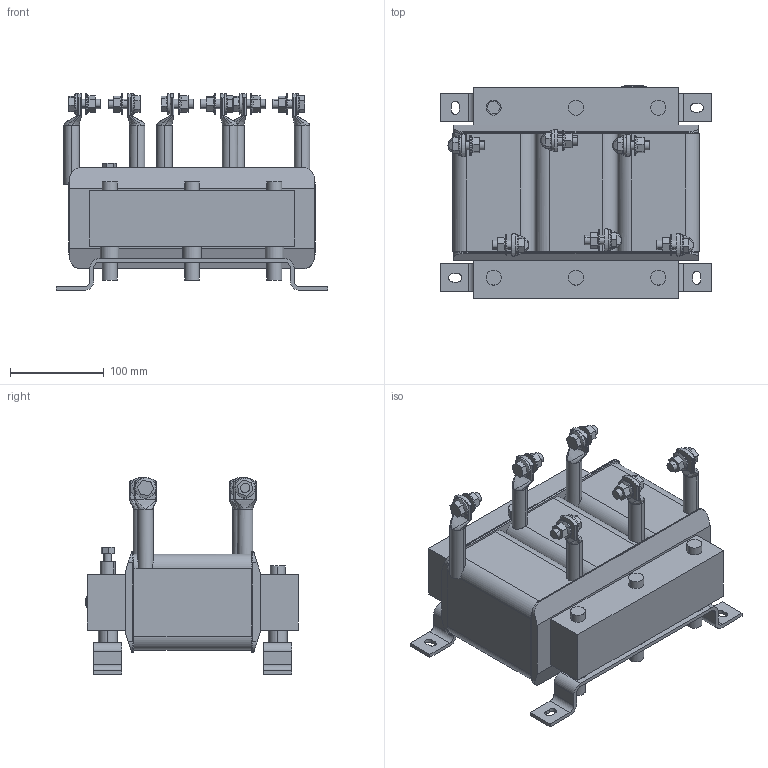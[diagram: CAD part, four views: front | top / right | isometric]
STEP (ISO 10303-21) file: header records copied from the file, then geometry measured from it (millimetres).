
FILE_DESCRIPTION (( 'STEP AP214' ), '1' );
FILE_NAME ('00Z1BX0-0025.STEP', '2024-05-15T07:13:19', ( '' ), ( '' ), 'SwSTEP 2.0', 'SolidWorks 2022', '' );
FILE_SCHEMA (( 'AUTOMOTIVE_DESIGN' ));
Length unit declared in the file: millimetre
Products named in the file (1): 00Z1BX0-0025
Bounding box: 290 x 227.12 x 210 mm (x, y, z)
Volume: 5075709.5 mm3; surface area: 341605.5 mm2
Topology: 1 solids, 1 shells, 592 faces, 1493 edges, 947 vertices
Faces by surface type: plane 281, cylinder 206, bspline 61, cone 24, torus 20
Entity records: 22632 total; most frequent: CARTESIAN_POINT 8683, ORIENTED_EDGE 2986, DIRECTION 2610, EDGE_CURVE 1493, AXIS2_PLACEMENT_3D 947, VERTEX_POINT 947, LINE 716, VECTOR 716
